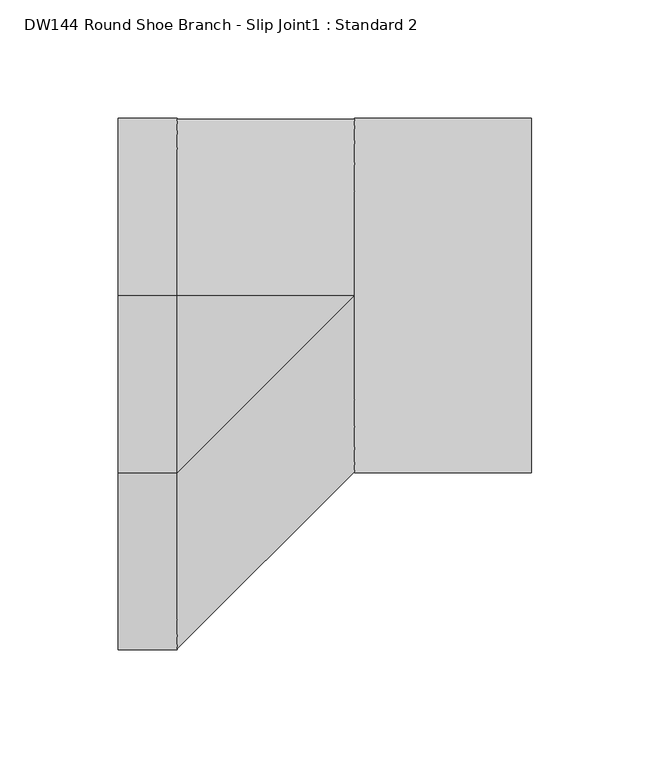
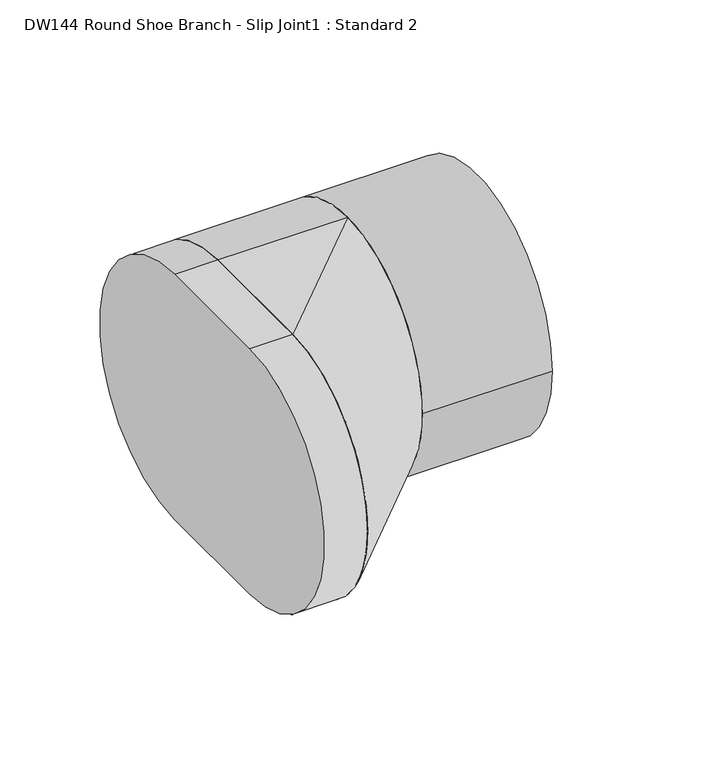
"""IFC4 building model written with IfcOpenShell, lengths in millimetres: duct fitting geometry, DW144 Round Shoe Branch - Slip Joint1 : Standard 2."""

from ifc_helpers import new_model, si_unit, point, frame, frame_2d, origin, origin_2d, place, context, project, spatial, polyline, circle_curve, trimmed, segment, composite_curve, outline, extrude, source, transform, mapped, element, save
from ifc_brep_helpers import plane_surface, cylinder_surface, extruded_surface, advanced_brep


def dw144_round_shoe_branch_slip_joint1_standard_2_4739001b(model_context):
    return source(origin(), model_context, "Body", "SolidModel", [
        extrude(outline(composite_curve([segment(trimmed(circle_curve(origin_2d(), 75.0), [point((-75.0, 0.0))], [point((75.0, 0.0))], False, "CARTESIAN"), True, "CONTINUOUS"), segment(trimmed(circle_curve(origin_2d(), 75.0), [point((75.0, 0.0))], [point((-75.0, 0.0))], False, "CARTESIAN"), True, "CONTINUOUS")], self_intersect=False)), frame((75.0, 0.0, 0.0), z_axis=(1.0, 0.0, 0.0), x_axis=(0.0, 1.0, 0.0)), (0.0, 0.0, 1.0), 75.0),
        advanced_brep(
        [(75.0, 0.0, -75.0), (75.0, 0.0, 75.0), (0.0, 0.0, -75.0), (0.0, -75.0, -75.0), (0.0, -75.0, 75.0), (0.0, 0.0, 75.0)],
        [
            (0, 1, circle_curve(frame((75.0, 0.0, 0.0), z_axis=(1.0, 0.0, 0.0), x_axis=(0.0, 1.0, 0.0)), 75.0)),
            (1, 0, circle_curve(frame((75.0, 0.0, 0.0), z_axis=(1.0, 0.0, 0.0), x_axis=(0.0, 1.0, 0.0)), 75.0)),
            (2, 3),
            (3, 4, circle_curve(frame((0.0, -75.0, 0.0), z_axis=(-1.0, 0.0, 0.0), x_axis=(0.0, 1.0, 0.0)), 75.0)),
            (4, 5),
            (5, 2, circle_curve(frame((0.0, 0.0, 0.0), z_axis=(-1.0, 0.0, 0.0), x_axis=(0.0, 1.0, 0.0)), 75.0)),
            (5, 1),
            (0, 2),
            (4, 1),
            (3, 0),
        ],
        [
            plane_surface(frame((75.0, 0.0, 0.0), z_axis=(1.0, 0.0, 0.0), x_axis=(0.0, 1.0, 0.0))),
            plane_surface(frame((0.0, -37.5, 0.0), z_axis=(-1.0, 0.0, 0.0), x_axis=(0.0, 1.0, 0.0))),
            cylinder_surface(frame((0.0, 0.0, 0.0), z_axis=(1.0, 0.0, 0.0), x_axis=(0.0, 1.0, 0.0)), 75.0),
            plane_surface(frame((0.0, -37.5, 75.0), z_axis=(0.0, 0.0, 1.0), x_axis=(0.0, -1.0, 0.0))),
            extruded_surface(trimmed(circle_curve(frame((0.0, -75.0, 0.0), z_axis=(1.0, 0.0, 0.0), x_axis=(0.0, 1.0, 0.0)), 75.0), [point((0.0, -75.0, 75.0))], [point((0.0, -75.0, -75.0))], True, "CARTESIAN"), (75.0, 75.0, 0.0), 106.06601717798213),
            plane_surface(frame((0.0, -37.5, -75.0), z_axis=(0.0, 0.0, -1.0), x_axis=(0.0, 1.0, 0.0))),
        ],
        [
            (0, [[1, 2]]),
            (1, [[3, 4, 5, 6]]),
            (2, [[-6, 7, -1, 8]]),
            (3, [[-5, 9, -7]]),
            (4, [[-4, 10, -2, -9]]),
            (5, [[-3, -8, -10]]),
        ],
    ),
        extrude(outline(composite_curve([segment(polyline([(0.0, -75.0), (-75.0, -75.0)]), True, "CONTINUOUS"), segment(trimmed(circle_curve(frame_2d((-75.0, 0.0)), 75.0), [point((-75.0, -75.0))], [point((-75.0, 75.0))], False, "CARTESIAN"), True, "CONTINUOUS"), segment(polyline([(-75.0, 75.0), (0.0, 75.0)]), True, "CONTINUOUS"), segment(trimmed(circle_curve(origin_2d(), 75.0), [point((0.0, 75.0))], [point((0.0, -75.0))], False, "CARTESIAN"), True, "CONTINUOUS")], self_intersect=False)), frame((-25.0996102, 0.0, 0.0), z_axis=(1.0, 0.0, 0.0), x_axis=(0.0, 1.0, 0.0)), (0.0, 0.0, 1.0), 25.0996102),
    ])


if __name__ == "__main__":
    model = new_model("IFC4")
    model_context = context("Model", 3, world=origin())
    ifc_project = project(units=[si_unit("LENGTHUNIT", "METRE", prefix="MILLI")], contexts=[model_context])
    site = spatial("IfcSite", under=ifc_project)
    building = spatial("IfcBuilding", under=site)
    placement = place(None, origin())
    dw144_round_shoe_branch_slip_joint1_standard_2_shape = dw144_round_shoe_branch_slip_joint1_standard_2_4739001b(model_context)
    element("IfcDuctFitting", 1, ObjectType="DW144 Round Shoe Branch - Slip Joint1 : Standard 2", at=placement, inside=building, context=model_context, shape_type="MappedRepresentation", body=[
        mapped(dw144_round_shoe_branch_slip_joint1_standard_2_shape, transform((0.0, 0.0, 0.0), x_axis=(1.0, 0.0, 0.0), y_axis=(0.0, 1.0, 0.0), z_axis=(0.0, 0.0, 1.0))),
    ])
    save(model, "model.ifc")
